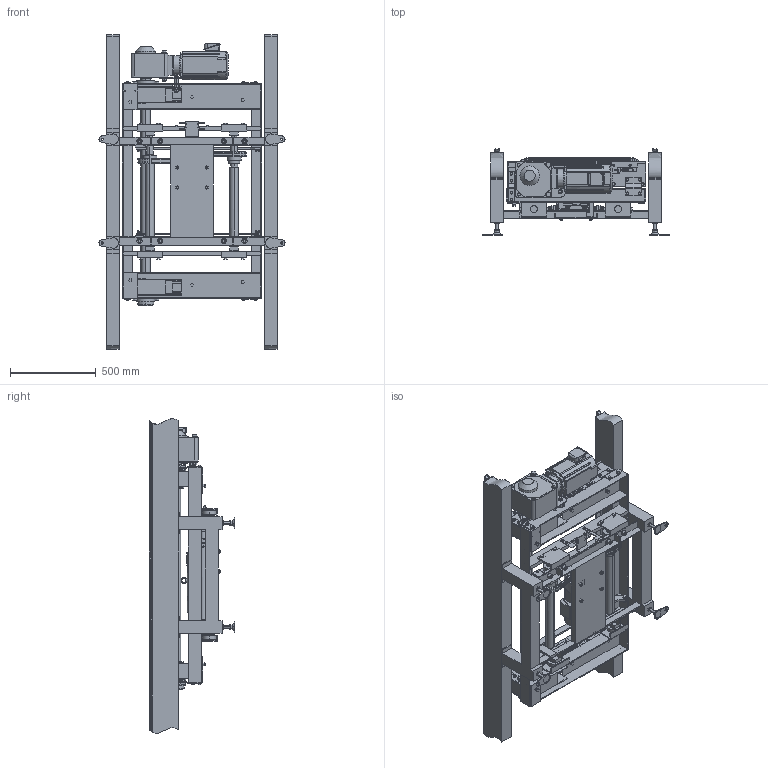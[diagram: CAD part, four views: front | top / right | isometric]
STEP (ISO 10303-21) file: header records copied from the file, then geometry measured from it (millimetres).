
FILE_DESCRIPTION( (''), '2;1');
FILE_NAME ('WEB-MHC-LTR-L-CAM.stp','2025-07-02T10:46:03',(''),(''),'spGate 20.6.2 (****-****-****-****)','','');
FILE_SCHEMA (('AUTOMOTIVE_DESIGN'));
Length unit declared in the file: millimetre
Products named in the file (51): WEB-MHC-LTR-L-CAM; TEMP_X_T-prt0; TEMP_X_T-prt1; TEMP_X_T-prt2; TEMP_X_T-prt3; TEMP_X_T-prt4; TEMP_X_T-prt5; TEMP_X_T-prt6; TEMP_X_T-prt7; TEMP_X_T-prt8; TEMP_X_T-prt9; TEMP_X_T-prt10; TEMP_X_T-prt11; TEMP_X_T-prt12; TEMP_X_T-prt13; TEMP_X_T-prt14; TEMP_X_T-prt15; TEMP_X_T-prt16; TEMP_X_T-prt17; TEMP_X_T-prt18; TEMP_X_T-prt19; TEMP_X_T-prt20; TEMP_X_T-prt21; TEMP_X_T-prt22; TEMP_X_T-prt23; TEMP_X_T-prt24; TEMP_X_T-prt25; TEMP_X_T-prt26; TEMP_X_T-prt27; TEMP_X_T-prt28; TEMP_X_T-prt29; TEMP_X_T-prt30; TEMP_X_T-prt31; TEMP_X_T-prt32; TEMP_X_T-prt33; TEMP_X_T-prt34; TEMP_X_T-prt35; TEMP_X_T-prt36; TEMP_X_T-prt37; TEMP_X_T-prt38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
Assembly tree (50 placements, depth 2):
  WEB-MHC-LTR-L-CAM
    TEMP_X_T-prt0
    TEMP_X_T-prt1
    TEMP_X_T-prt2
    TEMP_X_T-prt3
    TEMP_X_T-prt4
    TEMP_X_T-prt5
    TEMP_X_T-prt6
    TEMP_X_T-prt7
    TEMP_X_T-prt8
    TEMP_X_T-prt9
    TEMP_X_T-prt10
    TEMP_X_T-prt11
    TEMP_X_T-prt12
    TEMP_X_T-prt13
    TEMP_X_T-prt14
    TEMP_X_T-prt15
    TEMP_X_T-prt16
    TEMP_X_T-prt17
    TEMP_X_T-prt18
    TEMP_X_T-prt19
    TEMP_X_T-prt20
    TEMP_X_T-prt21
    TEMP_X_T-prt22
    TEMP_X_T-prt23
    TEMP_X_T-prt24
    TEMP_X_T-prt25
    TEMP_X_T-prt26
    TEMP_X_T-prt27
    TEMP_X_T-prt28
    TEMP_X_T-prt29
    TEMP_X_T-prt30
    TEMP_X_T-prt31
    TEMP_X_T-prt32
    TEMP_X_T-prt33
    TEMP_X_T-prt34
    TEMP_X_T-prt35
    TEMP_X_T-prt36
    TEMP_X_T-prt37
    TEMP_X_T-prt38
    TEMP_X_T-prt39
    TEMP_X_T-prt40
    TEMP_X_T-prt41
    TEMP_X_T-prt42
    TEMP_X_T-prt43
    TEMP_X_T-prt44
    TEMP_X_T-prt45
    TEMP_X_T-prt46
    TEMP_X_T-prt47
    TEMP_X_T-prt48
    TEMP_X_T-prt49
Bounding box: 1084 x 500.1 x 1832.41 mm (x, y, z)
Volume: 118635221.1 mm3; surface area: 10347559.8 mm2
Topology: 50 solids, 50 shells, 5060 faces, 12515 edges, 8120 vertices
Faces by surface type: plane 3974, cylinder 1002, bspline 83, sphere 1
Full cylindrical faces by diameter (mm): 5 x1, 6.6 x1, 6.8 x8, 8 x8, 12.2 x32, 12.5 x16, 14.2 x4, 15.4 x13, 16 x3, 16.2 x4, 17 x12, 18 x2, 18.4 x32, 21 x32, 22 x2, 24 x1, 28 x3, 28.096 x2, 30 x3, 65 x1, 110 x1, 112 x1, 114 x1
Entity records: 257888 total; most frequent: CARTESIAN_POINT 31972, DIRECTION 25114, ORIENTED_EDGE 25014, COLOUR_RGB 17617, PRESENTATION_STYLE_ASSIGNMENT 17617, STYLED_ITEM 17617, EDGE_CURVE 12507, DRAUGHTING_PRE_DEFINED_CURVE_FONT 12507
